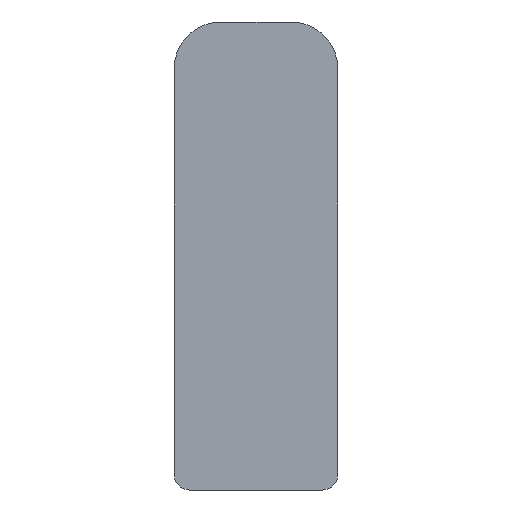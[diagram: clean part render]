
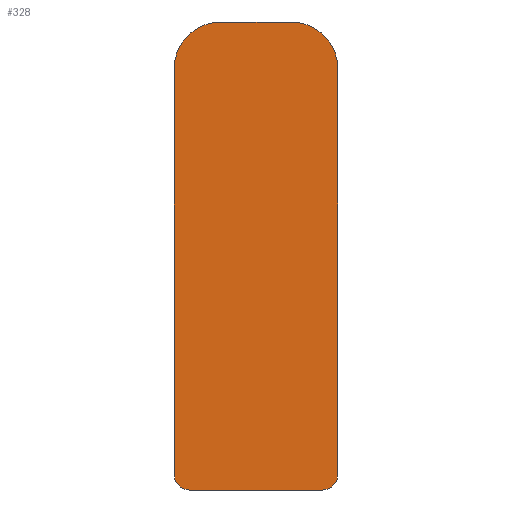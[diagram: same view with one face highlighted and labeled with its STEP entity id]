
A CAD part, left-side view. The second image highlights one B-rep face of the part: STEP entity #328.
In plain terms, the highlighted planar face has unit normal (-1, 0, 0).
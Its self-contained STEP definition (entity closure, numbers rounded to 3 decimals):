
#9 = VECTOR ( 'NONE', #192, 1000. ) ;
#10 = LINE ( 'NONE', #193, #9 ) ;
#14 = CIRCLE ( 'NONE', #137, 3. ) ;
#19 = VECTOR ( 'NONE', #209, 1000. ) ;
#20 = LINE ( 'NONE', #210, #19 ) ;
#34 = VECTOR ( 'NONE', #304, 1000. ) ;
#37 = FACE_OUTER_BOUND ( 'NONE', #150, .T. ) ;
#44 = CIRCLE ( 'NONE', #162, 3. ) ;
#51 = LINE ( 'NONE', #305, #34 ) ;
#55 = EDGE_CURVE ( 'NONE', #314, #308, #90, .T. ) ;
#58 = EDGE_CURVE ( 'NONE', #308, #293, #79, .T. ) ;
#61 = EDGE_CURVE ( 'NONE', #293, #281, #65, .T. ) ;
#63 = EDGE_CURVE ( 'NONE', #281, #287, #51, .T. ) ;
#65 = CIRCLE ( 'NONE', #166, 1. ) ;
#78 = VECTOR ( 'NONE', #321, 1000. ) ;
#79 = LINE ( 'NONE', #322, #78 ) ;
#89 = ORIENTED_EDGE ( 'NONE', *, *, #336, .T. ) ;
#90 = CIRCLE ( 'NONE', #168, 1. ) ;
#91 = ORIENTED_EDGE ( 'NONE', *, *, #339, .T. ) ;
#95 = ORIENTED_EDGE ( 'NONE', *, *, #172, .T. ) ;
#97 = ORIENTED_EDGE ( 'NONE', *, *, #342, .T. ) ;
#108 = ORIENTED_EDGE ( 'NONE', *, *, #55, .T. ) ;
#116 = ORIENTED_EDGE ( 'NONE', *, *, #58, .T. ) ;
#117 = ORIENTED_EDGE ( 'NONE', *, *, #61, .T. ) ;
#118 = ORIENTED_EDGE ( 'NONE', *, *, #63, .T. ) ;
#137 = AXIS2_PLACEMENT_3D ( 'NONE', #201, #200, #199 ) ;
#143 = AXIS2_PLACEMENT_3D ( 'NONE', #240, #238, #237 ) ;
#150 = EDGE_LOOP ( 'NONE', ( #95, #89, #91, #97, #108, #116, #117, #118 ) ) ;
#162 = AXIS2_PLACEMENT_3D ( 'NONE', #288, #286, #285 ) ;
#166 = AXIS2_PLACEMENT_3D ( 'NONE', #313, #311, #309 ) ;
#168 = AXIS2_PLACEMENT_3D ( 'NONE', #216, #214, #212 ) ;
#172 = EDGE_CURVE ( 'NONE', #287, #310, #44, .T. ) ;
#192 = DIRECTION ( 'NONE',  ( 0., 0., -1. ) ) ;
#193 = CARTESIAN_POINT ( 'NONE',  ( -406.25, 5.25, 1. ) ) ;
#199 = DIRECTION ( 'NONE',  ( 0., 0., -1. ) ) ;
#200 = DIRECTION ( 'NONE',  ( -1., 0., 0. ) ) ;
#201 = CARTESIAN_POINT ( 'NONE',  ( -406.25, 2.25, 27. ) ) ;
#209 = DIRECTION ( 'NONE',  ( 0., 1., 0. ) ) ;
#210 = CARTESIAN_POINT ( 'NONE',  ( -406.25, -2.25, 30. ) ) ;
#212 = DIRECTION ( 'NONE',  ( 0., 0., -1. ) ) ;
#214 = DIRECTION ( 'NONE',  ( -1., 0., 0. ) ) ;
#216 = CARTESIAN_POINT ( 'NONE',  ( -406.25, 4.25, 1. ) ) ;
#237 = DIRECTION ( 'NONE',  ( 0., 0., 1. ) ) ;
#238 = DIRECTION ( 'NONE',  ( -1., 0., 0. ) ) ;
#240 = CARTESIAN_POINT ( 'NONE',  ( -406.25, -2.25, 27. ) ) ;
#241 = PLANE ( 'NONE',  #143 ) ;
#256 = VERTEX_POINT ( 'NONE', #284 ) ;
#260 = VERTEX_POINT ( 'NONE', #283 ) ;
#266 = CARTESIAN_POINT ( 'NONE',  ( -406.25, 5.25, 1. ) ) ;
#269 = CARTESIAN_POINT ( 'NONE',  ( -406.25, -2.25, 30. ) ) ;
#270 = CARTESIAN_POINT ( 'NONE',  ( -406.25, 4.25, 0. ) ) ;
#271 = CARTESIAN_POINT ( 'NONE',  ( -406.25, -4.25, 0. ) ) ;
#274 = CARTESIAN_POINT ( 'NONE',  ( -406.25, -5.25, 27. ) ) ;
#275 = CARTESIAN_POINT ( 'NONE',  ( -406.25, -5.25, 1. ) ) ;
#281 = VERTEX_POINT ( 'NONE', #275 ) ;
#283 = CARTESIAN_POINT ( 'NONE',  ( -406.25, 5.25, 27. ) ) ;
#284 = CARTESIAN_POINT ( 'NONE',  ( -406.25, 2.25, 30. ) ) ;
#285 = DIRECTION ( 'NONE',  ( 0., 0., 1. ) ) ;
#286 = DIRECTION ( 'NONE',  ( -1., 0., 0. ) ) ;
#287 = VERTEX_POINT ( 'NONE', #274 ) ;
#288 = CARTESIAN_POINT ( 'NONE',  ( -406.25, -2.25, 27. ) ) ;
#293 = VERTEX_POINT ( 'NONE', #271 ) ;
#304 = DIRECTION ( 'NONE',  ( 0., 0., 1. ) ) ;
#305 = CARTESIAN_POINT ( 'NONE',  ( -406.25, -5.25, 1. ) ) ;
#308 = VERTEX_POINT ( 'NONE', #270 ) ;
#309 = DIRECTION ( 'NONE',  ( 0., 0., -1. ) ) ;
#310 = VERTEX_POINT ( 'NONE', #269 ) ;
#311 = DIRECTION ( 'NONE',  ( -1., 0., 0. ) ) ;
#313 = CARTESIAN_POINT ( 'NONE',  ( -406.25, -4.25, 1. ) ) ;
#314 = VERTEX_POINT ( 'NONE', #266 ) ;
#321 = DIRECTION ( 'NONE',  ( 0., -1., 0. ) ) ;
#322 = CARTESIAN_POINT ( 'NONE',  ( -406.25, -4.25, 0. ) ) ;
#328 = ADVANCED_FACE ( 'NONE', ( #37 ), #241, .T. ) ;
#336 = EDGE_CURVE ( 'NONE', #310, #256, #20, .T. ) ;
#339 = EDGE_CURVE ( 'NONE', #256, #260, #14, .T. ) ;
#342 = EDGE_CURVE ( 'NONE', #260, #314, #10, .T. ) ;
